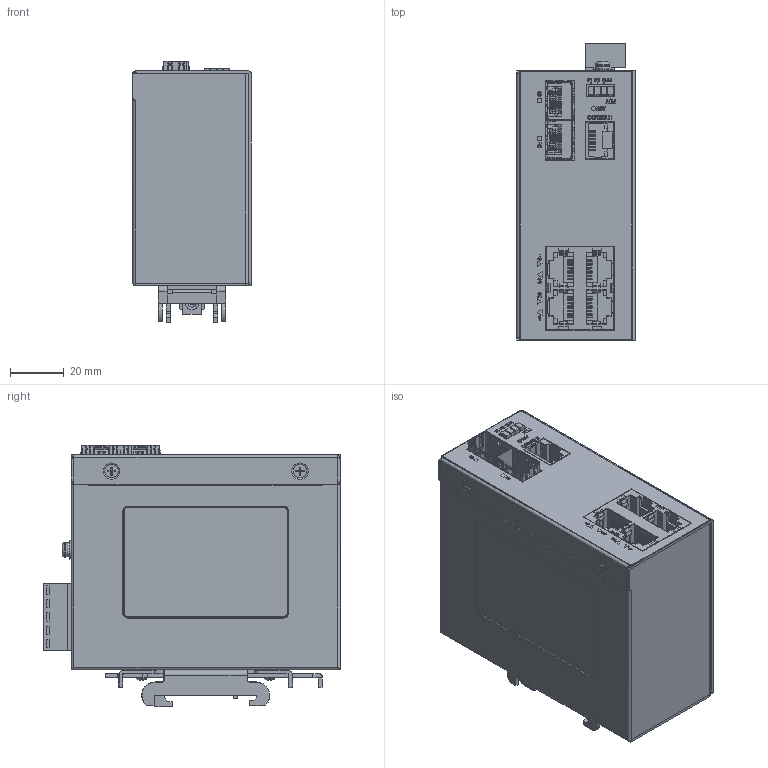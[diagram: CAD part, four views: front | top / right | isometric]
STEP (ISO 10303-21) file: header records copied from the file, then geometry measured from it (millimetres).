
FILE_DESCRIPTION(/* description */ (''),/* implementation_level */ '2;1');
FILE_NAME(/* name */ '2SFP-4RJ-M_STEP.stp',/* time_stamp */ '2026-06-08T17:51:40+08:00',/* author */ ('laozh'),/* organization */ (''),/* preprocessor_version */ 'ST-DEVELOPER v20.1',/* originating_system */ 'Autodesk Inventor 2026',/* authorisation */ '');
FILE_SCHEMA (('AUTOMOTIVE_DESIGN { 1 0 10303 214 3 1 1 }'));
Products named in the file (1): 2SFP-4RJ-M_简化_1
Bounding box: 44 x 110.2 x 97.28 mm (x, y, z)
Volume: 60395.8 mm3; surface area: 90524.7 mm2
Topology: 1 solids, 1 shells, 6188 faces, 17722 edges, 11363 vertices
Faces by surface type: plane 4231, cylinder 1366, bspline 417, torus 89, cone 74, sphere 11
Full cylindrical faces by diameter (mm): 1 x5, 1.5 x2, 2 x42, 2.4 x11, 2.5 x14, 3 x16, 3.01 x2, 3.4 x2, 3.5 x5, 4 x1, 4.5 x2, 5 x4, 5.3 x1, 6.5 x2, 7 x1
Entity records: 222222 total; most frequent: CARTESIAN_POINT 53959, ORIENTED_EDGE 35436, DIRECTION 31440, EDGE_CURVE 17718, LINE 13694, VECTOR 13694, VERTEX_POINT 11363, AXIS2_PLACEMENT_3D 8873
